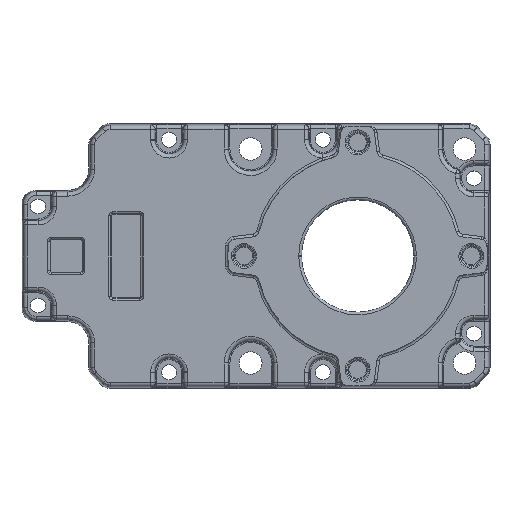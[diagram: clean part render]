
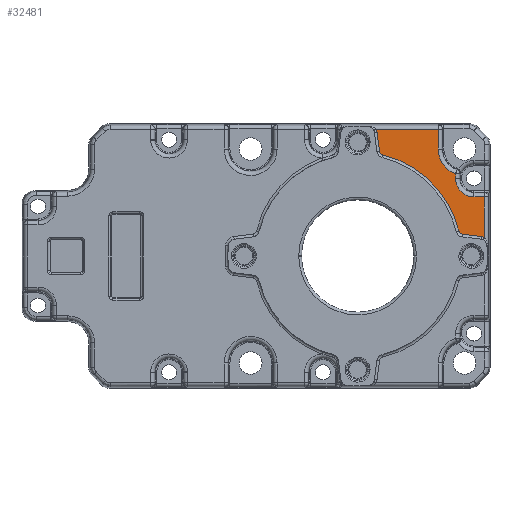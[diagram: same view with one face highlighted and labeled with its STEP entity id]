
A CAD part, left-side view. The second image highlights one B-rep face of the part: STEP entity #32481.
In plain terms, the highlighted planar face has unit normal (-1, 0, 0).
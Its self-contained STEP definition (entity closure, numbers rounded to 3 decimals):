
#12178=CARTESIAN_POINT('Vertex',(0.,-36.619,30.715)) ;
#13142=CARTESIAN_POINT('Vertex',(0.,-47.371,22.119)) ;
#21192=CARTESIAN_POINT('Vertex',(0.,-43.5,22.119)) ;
#21195=CARTESIAN_POINT('Line Origine',(0.,-47.8,22.119)) ;
#21216=CARTESIAN_POINT('Vertex',(0.,-36.619,29.)) ;
#21219=CARTESIAN_POINT('Axis2P3D Location',(0.,-43.5,29.)) ;
#21236=CARTESIAN_POINT('Line Origine',(0.,-36.619,28.782)) ;
#21264=CARTESIAN_POINT('Vertex',(0.,-30.119,40.)) ;
#21267=CARTESIAN_POINT('Axis2P3D Location',(0.,-40.,40.)) ;
#21327=CARTESIAN_POINT('Vertex',(0.,-30.119,47.371)) ;
#21330=CARTESIAN_POINT('Line Origine',(0.,-30.119,39.782)) ;
#22344=CARTESIAN_POINT('Line Origine',(0.,-47.371,-178.557)) ;
#22348=CARTESIAN_POINT('Vertex',(0.,-47.371,6.928)) ;
#31228=CARTESIAN_POINT('Vertex',(0.,-46.301,7.249)) ;
#31247=CARTESIAN_POINT('Axis2P3D Location',(0.,-45.845,3.779)) ;
#31348=CARTESIAN_POINT('Vertex',(0.,-39.13,8.193)) ;
#31358=CARTESIAN_POINT('Line Origine',(0.,-46.454,7.229)) ;
#31379=CARTESIAN_POINT('Vertex',(0.,-37.87,9.322)) ;
#31389=CARTESIAN_POINT('Axis2P3D Location',(0.,-39.326,9.68)) ;
#31410=CARTESIAN_POINT('Vertex',(0.,-9.322,37.87)) ;
#31420=CARTESIAN_POINT('Axis2P3D Location',(0.,0.,0.)) ;
#31441=CARTESIAN_POINT('Vertex',(0.,-8.193,39.13)) ;
#31451=CARTESIAN_POINT('Axis2P3D Location',(0.,-9.68,39.326)) ;
#31472=CARTESIAN_POINT('Vertex',(0.,-7.249,46.301)) ;
#31482=CARTESIAN_POINT('Line Origine',(0.,-8.213,38.978)) ;
#31505=CARTESIAN_POINT('Vertex',(0.,-6.928,47.371)) ;
#31515=CARTESIAN_POINT('Axis2P3D Location',(0.,-3.779,45.845)) ;
#32455=CARTESIAN_POINT('Axis2P3D Location',(0.,0.,0.)) ;
#32460=CARTESIAN_POINT('Line Origine',(0.,-18.524,47.371)) ;
#21196=DIRECTION('Vector Direction',(0.,1.,0.)) ;
#21220=DIRECTION('Axis2P3D Direction',(-1.,-0.,0.)) ;
#21237=DIRECTION('Vector Direction',(0.,0.,1.)) ;
#21268=DIRECTION('Axis2P3D Direction',(1.,0.,0.)) ;
#21331=DIRECTION('Vector Direction',(0.,0.,1.)) ;
#22345=DIRECTION('Vector Direction',(0.,0.,1.)) ;
#31248=DIRECTION('Axis2P3D Direction',(-1.,0.,0.)) ;
#31359=DIRECTION('Vector Direction',(0.,0.991,0.131)) ;
#31390=DIRECTION('Axis2P3D Direction',(-1.,0.,0.)) ;
#31421=DIRECTION('Axis2P3D Direction',(-1.,-0.,0.)) ;
#31452=DIRECTION('Axis2P3D Direction',(1.,0.,0.)) ;
#31483=DIRECTION('Vector Direction',(0.,0.131,0.991)) ;
#31516=DIRECTION('Axis2P3D Direction',(-1.,0.,0.)) ;
#32456=DIRECTION('Axis2P3D Direction',(1.,0.,0.)) ;
#32457=DIRECTION('Axis2P3D XDirection',(0.,0.,-1.)) ;
#32461=DIRECTION('Vector Direction',(0.,1.,0.)) ;
#21221=AXIS2_PLACEMENT_3D('Circle Axis2P3D',#21219,#21220,$) ;
#21269=AXIS2_PLACEMENT_3D('Circle Axis2P3D',#21267,#21268,$) ;
#31249=AXIS2_PLACEMENT_3D('Circle Axis2P3D',#31247,#31248,$) ;
#31391=AXIS2_PLACEMENT_3D('Circle Axis2P3D',#31389,#31390,$) ;
#31422=AXIS2_PLACEMENT_3D('Circle Axis2P3D',#31420,#31421,$) ;
#31453=AXIS2_PLACEMENT_3D('Circle Axis2P3D',#31451,#31452,$) ;
#31517=AXIS2_PLACEMENT_3D('Circle Axis2P3D',#31515,#31516,$) ;
#32458=AXIS2_PLACEMENT_3D('Plane Axis2P3D',#32455,#32456,#32457) ;
#32466=ORIENTED_EDGE('',*,*,#22350,.T.) ;
#32467=ORIENTED_EDGE('',*,*,#21199,.T.) ;
#32468=ORIENTED_EDGE('',*,*,#21223,.T.) ;
#32469=ORIENTED_EDGE('',*,*,#21240,.T.) ;
#32470=ORIENTED_EDGE('',*,*,#21271,.T.) ;
#32471=ORIENTED_EDGE('',*,*,#21334,.T.) ;
#32472=ORIENTED_EDGE('',*,*,#32464,.T.) ;
#32473=ORIENTED_EDGE('',*,*,#31519,.F.) ;
#32474=ORIENTED_EDGE('',*,*,#31486,.F.) ;
#32475=ORIENTED_EDGE('',*,*,#31455,.F.) ;
#32476=ORIENTED_EDGE('',*,*,#31424,.F.) ;
#32477=ORIENTED_EDGE('',*,*,#31393,.F.) ;
#32478=ORIENTED_EDGE('',*,*,#31362,.F.) ;
#32479=ORIENTED_EDGE('',*,*,#31251,.F.) ;
#21197=VECTOR('Line Direction',#21196,1.) ;
#21238=VECTOR('Line Direction',#21237,1.) ;
#21332=VECTOR('Line Direction',#21331,1.) ;
#22346=VECTOR('Line Direction',#22345,1.) ;
#31360=VECTOR('Line Direction',#31359,1.) ;
#31484=VECTOR('Line Direction',#31483,1.) ;
#32462=VECTOR('Line Direction',#32461,1.) ;
#32481=ADVANCED_FACE('MANIFOLD_SOLID_BREP #48527',(#32480),#32459,.F.) ;
#21222=CIRCLE('generated circle',#21221,6.881) ;
#21270=CIRCLE('generated circle',#21269,9.881) ;
#31250=CIRCLE('generated circle',#31249,3.5) ;
#31392=CIRCLE('generated circle',#31391,1.5) ;
#31423=CIRCLE('generated circle',#31422,39.) ;
#31454=CIRCLE('generated circle',#31453,1.5) ;
#31518=CIRCLE('generated circle',#31517,3.5) ;
#21199=EDGE_CURVE('',#13143,#21193,#21198,.T.) ;
#21223=EDGE_CURVE('',#21193,#21217,#21222,.F.) ;
#21240=EDGE_CURVE('',#21217,#12179,#21239,.T.) ;
#21271=EDGE_CURVE('',#12179,#21265,#21270,.T.) ;
#21334=EDGE_CURVE('',#21265,#21328,#21333,.T.) ;
#22350=EDGE_CURVE('',#22349,#13143,#22347,.T.) ;
#31251=EDGE_CURVE('',#22349,#31229,#31250,.T.) ;
#31362=EDGE_CURVE('',#31229,#31349,#31361,.T.) ;
#31393=EDGE_CURVE('',#31349,#31380,#31392,.F.) ;
#31424=EDGE_CURVE('',#31380,#31411,#31423,.T.) ;
#31455=EDGE_CURVE('',#31411,#31442,#31454,.T.) ;
#31486=EDGE_CURVE('',#31442,#31473,#31485,.T.) ;
#31519=EDGE_CURVE('',#31473,#31506,#31518,.T.) ;
#32464=EDGE_CURVE('',#21328,#31506,#32463,.T.) ;
#32465=EDGE_LOOP('',(#32466,#32467,#32468,#32469,#32470,#32471,#32472,#32473,#32474,#32475,#32476,#32477,#32478,#32479)) ;
#32480=FACE_OUTER_BOUND('',#32465,.T.) ;
#21198=LINE('Line',#21195,#21197) ;
#21239=LINE('Line',#21236,#21238) ;
#21333=LINE('Line',#21330,#21332) ;
#22347=LINE('Line',#22344,#22346) ;
#31361=LINE('Line',#31358,#31360) ;
#31485=LINE('Line',#31482,#31484) ;
#32463=LINE('Line',#32460,#32462) ;
#32459=PLANE('',#32458) ;
#12179=VERTEX_POINT('',#12178) ;
#13143=VERTEX_POINT('',#13142) ;
#21193=VERTEX_POINT('',#21192) ;
#21217=VERTEX_POINT('',#21216) ;
#21265=VERTEX_POINT('',#21264) ;
#21328=VERTEX_POINT('',#21327) ;
#22349=VERTEX_POINT('',#22348) ;
#31229=VERTEX_POINT('',#31228) ;
#31349=VERTEX_POINT('',#31348) ;
#31380=VERTEX_POINT('',#31379) ;
#31411=VERTEX_POINT('',#31410) ;
#31442=VERTEX_POINT('',#31441) ;
#31473=VERTEX_POINT('',#31472) ;
#31506=VERTEX_POINT('',#31505) ;
